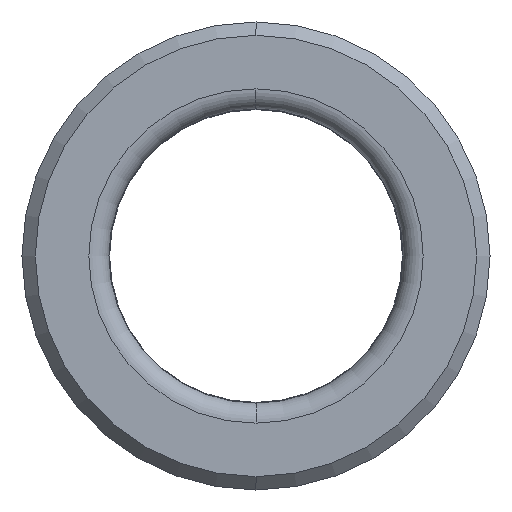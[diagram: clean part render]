
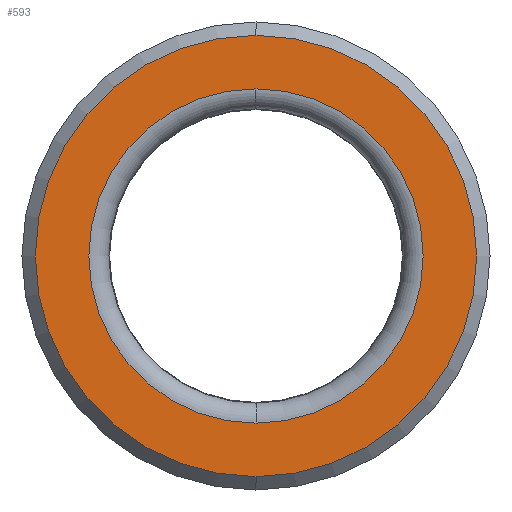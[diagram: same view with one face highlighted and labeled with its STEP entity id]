
A CAD part, left-side view. The second image highlights one B-rep face of the part: STEP entity #593.
In plain terms, the highlighted planar face has unit normal (-1, 0, 0).
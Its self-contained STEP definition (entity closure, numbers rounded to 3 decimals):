
#15 = CIRCLE ( 'NONE', #449, 12.5 ) ;
#18 = EDGE_LOOP ( 'NONE', ( #247, #267 ) ) ;
#74 = CARTESIAN_POINT ( 'NONE',  ( 0.91, 0., 16.5 ) ) ;
#87 = DIRECTION ( 'NONE',  ( 1., 0., 0. ) ) ;
#105 = CARTESIAN_POINT ( 'NONE',  ( 0.91, 0., -12.5 ) ) ;
#137 = EDGE_CURVE ( 'NONE', #302, #514, #405, .T. ) ;
#142 = DIRECTION ( 'NONE',  ( 0., 0., -1. ) ) ;
#150 = DIRECTION ( 'NONE',  ( 1., 0., 0. ) ) ;
#156 = CARTESIAN_POINT ( 'NONE',  ( 0.91, 0., 0. ) ) ;
#168 = CARTESIAN_POINT ( 'NONE',  ( 0.91, 0., 0. ) ) ;
#238 = DIRECTION ( 'NONE',  ( 0., 0., -1. ) ) ;
#247 = ORIENTED_EDGE ( 'NONE', *, *, #317, .T. ) ;
#265 = CARTESIAN_POINT ( 'NONE',  ( 0.91, 0., -16.5 ) ) ;
#267 = ORIENTED_EDGE ( 'NONE', *, *, #743, .T. ) ;
#269 = CARTESIAN_POINT ( 'NONE',  ( 0.91, 17.5, 0. ) ) ;
#278 = DIRECTION ( 'NONE',  ( -1., 0., 0. ) ) ;
#280 = DIRECTION ( 'NONE',  ( 1., 0., 0. ) ) ;
#282 = CARTESIAN_POINT ( 'NONE',  ( 0.91, 0., 12.5 ) ) ;
#287 = VERTEX_POINT ( 'NONE', #74 ) ;
#302 = VERTEX_POINT ( 'NONE', #282 ) ;
#317 = EDGE_CURVE ( 'NONE', #694, #287, #454, .T. ) ;
#352 = DIRECTION ( 'NONE',  ( 0., 0., -1. ) ) ;
#363 = CIRCLE ( 'NONE', #626, 16.5 ) ;
#374 = AXIS2_PLACEMENT_3D ( 'NONE', #156, #150, #142 ) ;
#400 = FACE_OUTER_BOUND ( 'NONE', #18, .T. ) ;
#405 = CIRCLE ( 'NONE', #374, 12.5 ) ;
#427 = ORIENTED_EDGE ( 'NONE', *, *, #137, .T. ) ;
#429 = FACE_BOUND ( 'NONE', #430, .T. ) ;
#430 = EDGE_LOOP ( 'NONE', ( #827, #427 ) ) ;
#449 = AXIS2_PLACEMENT_3D ( 'NONE', #796, #280, #352 ) ;
#454 = CIRCLE ( 'NONE', #463, 16.5 ) ;
#463 = AXIS2_PLACEMENT_3D ( 'NONE', #687, #682, #678 ) ;
#514 = VERTEX_POINT ( 'NONE', #105 ) ;
#517 = EDGE_CURVE ( 'NONE', #514, #302, #15, .T. ) ;
#593 = ADVANCED_FACE ( 'NONE', ( #429, #400 ), #599, .F. ) ;
#599 = PLANE ( 'NONE',  #672 ) ;
#606 = DIRECTION ( 'NONE',  ( 0., 0., -1. ) ) ;
#626 = AXIS2_PLACEMENT_3D ( 'NONE', #168, #278, #238 ) ;
#672 = AXIS2_PLACEMENT_3D ( 'NONE', #269, #87, #606 ) ;
#678 = DIRECTION ( 'NONE',  ( 0., 0., -1. ) ) ;
#682 = DIRECTION ( 'NONE',  ( -1., 0., 0. ) ) ;
#687 = CARTESIAN_POINT ( 'NONE',  ( 0.91, 0., 0. ) ) ;
#694 = VERTEX_POINT ( 'NONE', #265 ) ;
#743 = EDGE_CURVE ( 'NONE', #287, #694, #363, .T. ) ;
#796 = CARTESIAN_POINT ( 'NONE',  ( 0.91, 0., 0. ) ) ;
#827 = ORIENTED_EDGE ( 'NONE', *, *, #517, .T. ) ;
